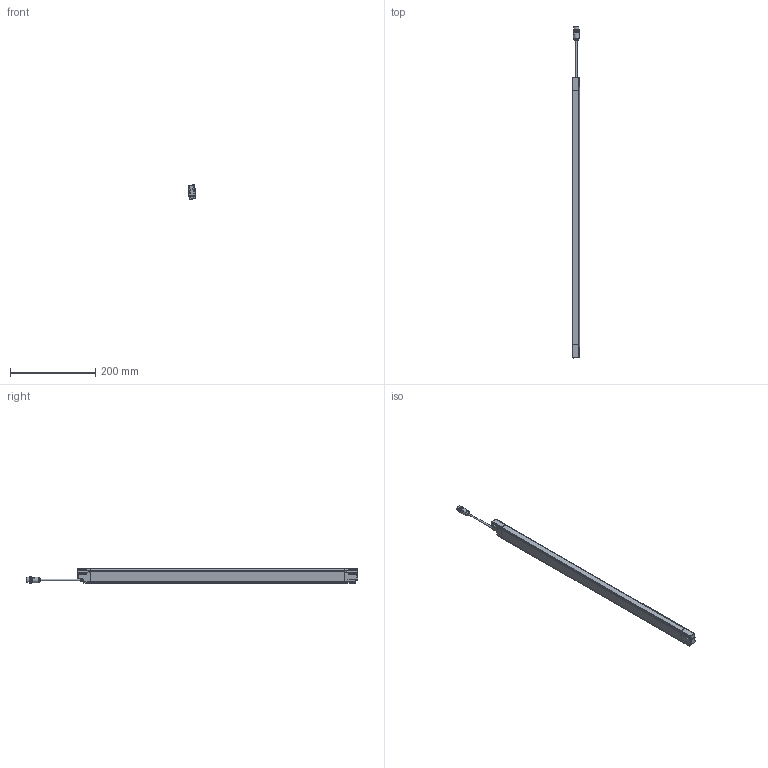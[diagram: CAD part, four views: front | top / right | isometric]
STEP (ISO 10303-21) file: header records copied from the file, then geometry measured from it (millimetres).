
FILE_DESCRIPTION(/* description */ (''),/* implementation_level */ '2;1');
FILE_NAME(/* name */ 'DSD-0637.stp',/* time_stamp */ '2015-02-23T17:31:32+01:00',/* author */ (''),/* organization */ (''),/* preprocessor_version */ 'ST-DEVELOPER v11',/* originating_system */ 'SIEMENS PLM Software NX 7.5',/* authorisation */ '');
FILE_SCHEMA (('AUTOMOTIVE_DESIGN { 1 0 10303 214 1 1 1 1 }'));
Length unit declared in the file: millimetre
Products named in the file (1): AP008119_00
Bounding box: 17.36 x 780.24 x 33.46 mm (x, y, z)
Surface area: 84180.4 mm2 (no closed solid volume)
Topology: 0 solids, 48 shells, 1087 faces, 3708 edges, 2537 vertices
Faces by surface type: cylinder 399, plane 327, bspline 151, torus 112, sphere 63, cone 35
Full cylindrical faces by diameter (mm): 1 x5, 1.2 x2, 2.6 x6, 4 x1, 8.3 x1, 9.4 x1, 10.4 x1, 12 x1, 13 x1, 13.5 x1, 14.5 x2
Entity records: 45990 total; most frequent: CARTESIAN_POINT 14698, DIRECTION 6681, ORIENTED_EDGE 5794, EDGE_CURVE 3595, AXIS2_PLACEMENT_3D 2510, VERTEX_POINT 2509, LINE 1661, VECTOR 1661
